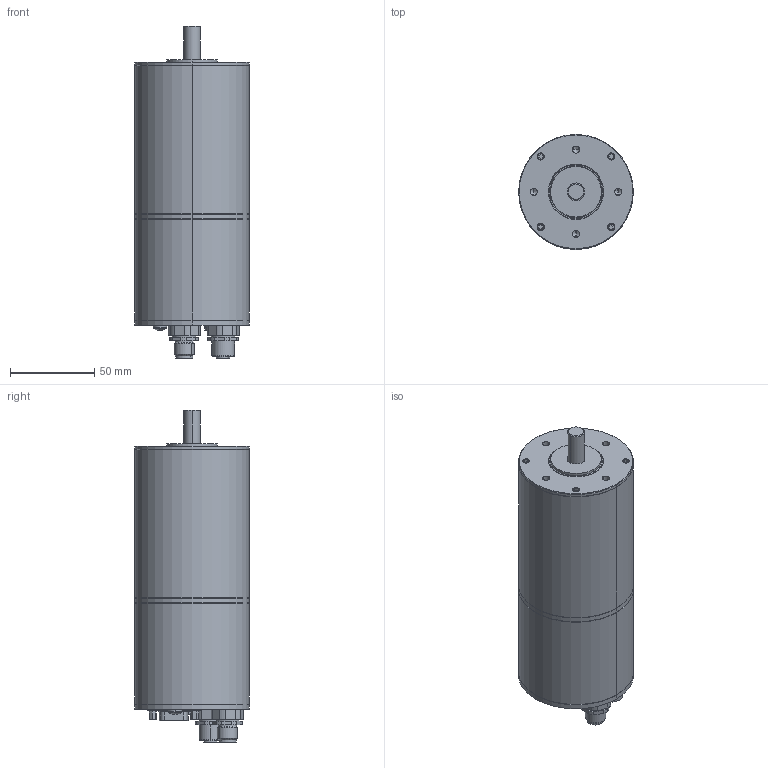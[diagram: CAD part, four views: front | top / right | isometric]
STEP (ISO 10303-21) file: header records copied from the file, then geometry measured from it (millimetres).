
FILE_DESCRIPTION (( 'STEP AP214' ), '1' );
FILE_NAME ('MSA 663.STEP', '2012-04-26T08:21:47', ( ' ' ), ( '' ), 'SwSTEP 2.0', 'SolidWorks 2010', '' );
FILE_SCHEMA (( 'AUTOMOTIVE_DESIGN' ));
Length unit declared in the file: millimetre
Products named in the file (8): 937201981; 9511200006_ISO 7045 - M4 x 6 - Z --- 6N; blank-M12Buchse; 940245002; 940245001; MSA 663; blank-M12Stecker
Assembly tree (8 placements, depth 2):
  MSA 663
    940245002  x2
    MSA 663
    blank-M12Buchse
    940245001
    blank-M12Stecker
    937201981
    9511200006_ISO 7045 - M4 x 6 - Z --- 6N
Bounding box: 68 x 68 x 196.9 mm (x, y, z)
Volume: 554446.4 mm3; surface area: 59321.5 mm2
Topology: 9 solids, 17 shells, 678 faces, 1581 edges, 960 vertices
Faces by surface type: cylinder 264, plane 223, cone 128, torus 33, sphere 30
Entity records: 21887 total; most frequent: DIRECTION 3434, CARTESIAN_POINT 3098, ORIENTED_EDGE 2858, EDGE_CURVE 1429, AXIS2_PLACEMENT_3D 1368, VERTEX_POINT 900, EDGE_LOOP 747, CIRCLE 705
